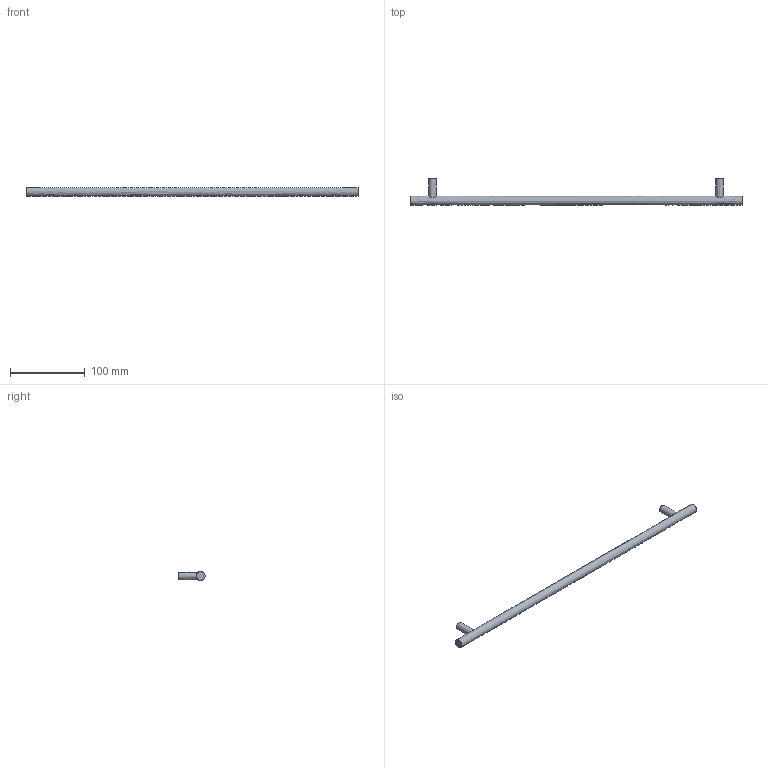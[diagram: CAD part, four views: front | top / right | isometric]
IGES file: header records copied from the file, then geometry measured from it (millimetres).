
Start section: Data from Parasolid IGES Translator 15.0.47, Copyright(c) 2006 Siemens P LM Software. All Rights Reserved.
Global section: file name: 9071024.igs; native system:  By UGS Corp.; preprocessor: XPlus GENERIC/IGES 3.0; author: Noname; organization: Noname; date: 20140122.181327; units: millimetre
Bounding box: 444 x 35 x 12 mm (x, y, z)
Surface area: 18769.9 mm2 (no closed solid volume)
Topology: 0 solids, 0 shells, 11 faces, 30 edges, 22 vertices
Faces by surface type: extrusion 6, revolution 5
